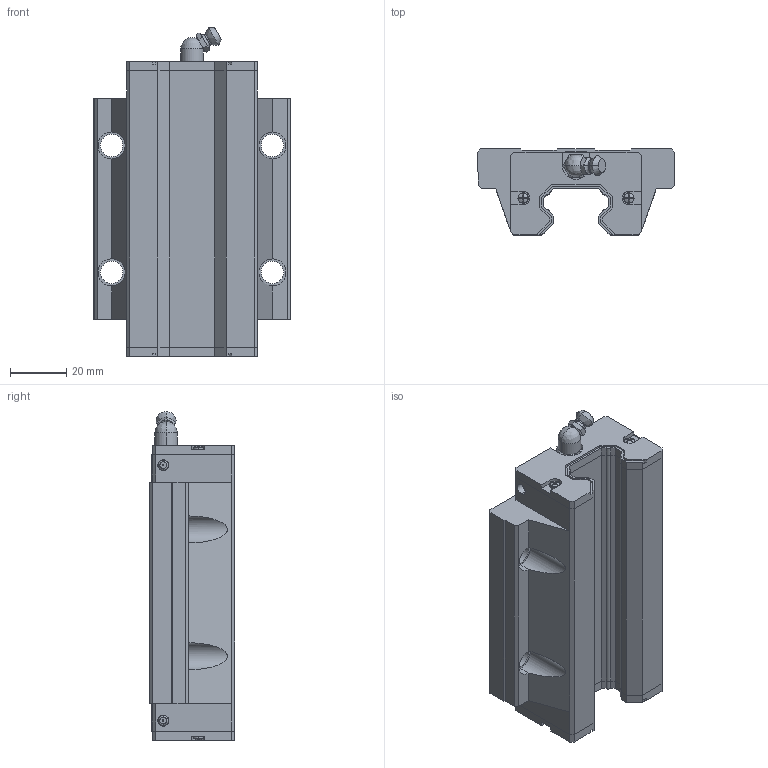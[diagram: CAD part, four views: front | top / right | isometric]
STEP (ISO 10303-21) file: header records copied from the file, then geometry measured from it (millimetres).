
FILE_DESCRIPTION (( 'STEP AP203' ), '1' );
FILE_NAME ('HGW25HC.STEP', '2021-10-25T04:40:42', ( '微软用户' ), ( '微软中国' ), 'SwSTEP 2.0', 'SolidWorks 2018', '' );
FILE_SCHEMA (( 'CONFIG_CONTROL_DESIGN' ));
Length unit declared in the file: millimetre
Products named in the file (1): HGW25HC
Bounding box: 70 x 30.4 x 116.6 mm (x, y, z)
Volume: 138915.5 mm3; surface area: 31717.3 mm2
Topology: 3 solids, 3 shells, 387 faces, 1032 edges, 671 vertices
Faces by surface type: plane 264, cylinder 74, bspline 26, cone 23
Entity records: 12872 total; most frequent: CARTESIAN_POINT 3293, ORIENTED_EDGE 2056, DIRECTION 1853, EDGE_CURVE 1028, LINE 715, VECTOR 715, VERTEX_POINT 671, AXIS2_PLACEMENT_3D 569
